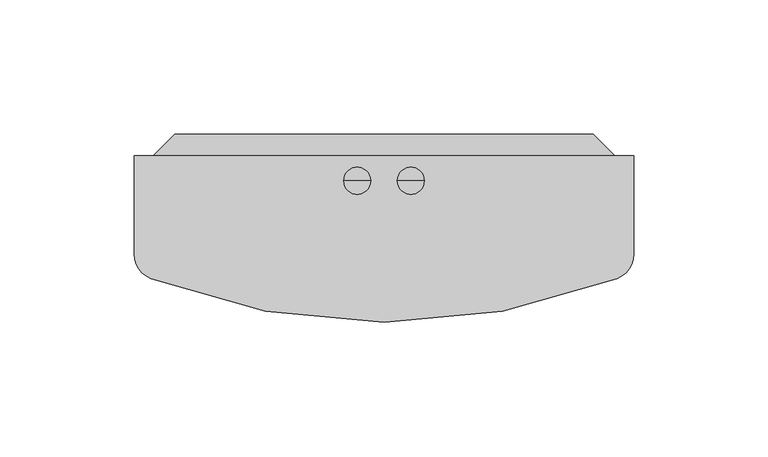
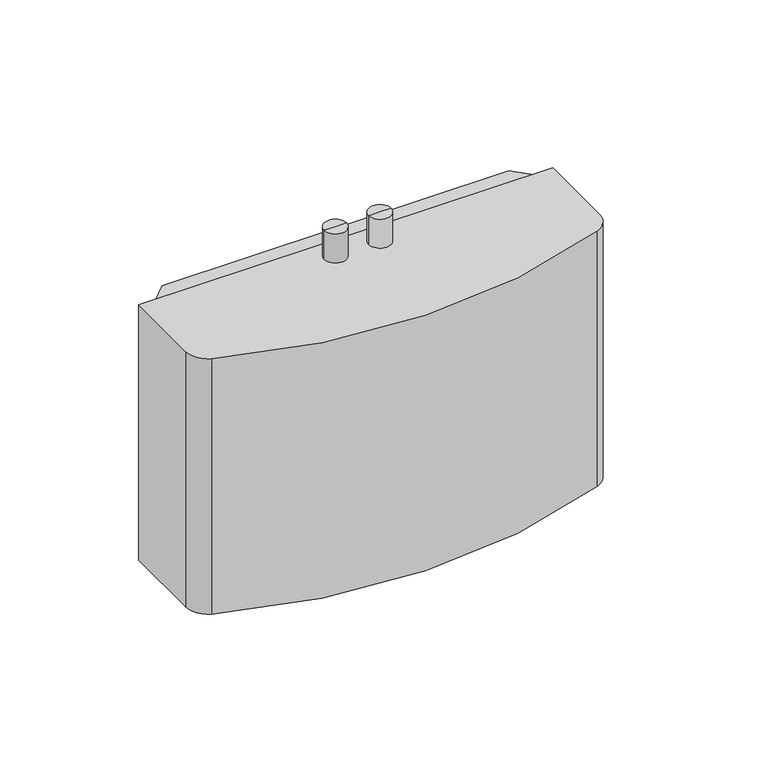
"""IFC4 building model written with IfcOpenShell, lengths in millimetres: flow terminal geometry, z_PlumFixt_Zenith_Booster : Booster."""

import ifcopenshell
import ifcopenshell.guid

model = None  # the IFC model being written
_history = None  # IfcOwnerHistory: only IFC2X3 demands one
_inside = {}  # id of a spatial element -> (the spatial element, [elements in it])
_under = {}  # id of a project, library or spatial element -> (it, [spatial elements below it])
_declared = {}  # id of a project -> (the project, [libraries it declares])
_typed = {}  # id of a type object -> (the type object, [elements of that type])
_made_of = {}  # id of a material, layer set ... -> (it, [elements and type objects made of it])


def new_model(schema):
    """Start an empty IFC model of exactly this schema.

    Asked for "IFC4X3", IfcOpenShell would pick the latest addendum, in which some entities
    have other attributes; the version numbers below select the first issue.
    IFC2X3 requires an IfcOwnerHistory on every rooted entity: one is made here for all.
    """
    global model, _history
    if schema == "IFC4X3":
        model = ifcopenshell.file(schema_version=(4, 3, 0, 0))
    else:
        model = ifcopenshell.file(schema=schema)
    _inside.clear()
    _under.clear()
    _declared.clear()
    _typed.clear()
    _made_of.clear()
    _history = None
    if model.schema == "IFC2X3":
        org = make("IfcOrganization", Name="unknown")
        user = make(
            "IfcPersonAndOrganization",
            ThePerson=make("IfcPerson", FamilyName="unknown"),
            TheOrganization=org,
        )
        app = make(
            "IfcApplication",
            ApplicationDeveloper=org,
            Version="unknown",
            ApplicationFullName="unknown",
            ApplicationIdentifier="unknown",
        )
        _history = make(
            "IfcOwnerHistory",
            OwningUser=user,
            OwningApplication=app,
            ChangeAction="ADDED",
            CreationDate=0,
        )
    return model


def make(cls, **values):
    """One entity of the class cls with the attributes given. An attribute that is None is left unset."""
    return model.create_entity(
        cls, **{name: value for name, value in values.items() if value is not None}
    )


def rooted(cls, **values):
    """An entity with a GlobalId (a new one), such as an element, a storey or a relation."""
    return make(cls, GlobalId=ifcopenshell.guid.new(), OwnerHistory=_history, **values)


def si_unit(unit_type, name, prefix=None):
    """IfcSIUnit, for example si_unit("LENGTHUNIT", "METRE", prefix="MILLI")."""
    return make("IfcSIUnit", UnitType=unit_type, Prefix=prefix, Name=name)


def assignment(units):
    """IfcUnitAssignment: the units of a project."""
    return None if units is None else make("IfcUnitAssignment", Units=units)


def point(xyz):
    """IfcCartesianPoint."""
    return None if xyz is None else make("IfcCartesianPoint", Coordinates=xyz)


def direction(xyz):
    """IfcDirection."""
    return None if xyz is None else make("IfcDirection", DirectionRatios=xyz)


def frame(location, z_axis=None, x_axis=None):
    """IfcAxis2Placement3D, a coordinate frame: its origin and axes. An axis left out is left unset."""
    return make(
        "IfcAxis2Placement3D",
        Location=point(location),
        Axis=direction(z_axis),
        RefDirection=direction(x_axis),
    )


def frame_2d(location, x_axis=None):
    """IfcAxis2Placement2D, a coordinate frame in the plane: its origin and x axis."""
    return make(
        "IfcAxis2Placement2D", Location=point(location), RefDirection=direction(x_axis)
    )


def origin():
    """The frame at (0, 0, 0) with its axes left unset."""
    return frame((0.0, 0.0, 0.0))


def origin_with_axes():
    """The frame at (0, 0, 0) with the z axis (0, 0, 1) and the x axis (1, 0, 0) written out."""
    return frame((0.0, 0.0, 0.0), z_axis=(0.0, 0.0, 1.0), x_axis=(1.0, 0.0, 0.0))


def place(relative_to, where):
    """IfcLocalPlacement: puts the frame where relative to a parent placement (None: the world)."""
    return make(
        "IfcLocalPlacement", PlacementRelTo=relative_to, RelativePlacement=where
    )


def context(
    kind, dimensions, precision=None, world=None, true_north=None, identifier=None
):
    """IfcGeometricRepresentationContext, for example the 3D "Model" context."""
    return make(
        "IfcGeometricRepresentationContext",
        ContextIdentifier=identifier,
        ContextType=kind,
        CoordinateSpaceDimension=dimensions,
        Precision=precision,
        WorldCoordinateSystem=world,
        TrueNorth=true_north,
    )


def project(units=None, contexts=None):
    """IfcProject with its units and contexts."""
    return rooted(
        "IfcProject",
        Name="project",
        RepresentationContexts=contexts,
        UnitsInContext=assignment(units),
    )


def spatial(cls, under=None, at=None, **own):
    """A site, building, storey or space (cls), placed at a placement, below another one or the project."""
    s = rooted(cls, ObjectPlacement=at, **own)
    if under is not None:
        _under.setdefault(under.id(), (under, []))[1].append(s)
    return s


def polyline(points):
    """IfcPolyline through the points."""
    return make("IfcPolyline", Points=[point(p) for p in points])


def circle_curve(where, radius):
    """IfcCircle in the frame where."""
    return make("IfcCircle", Position=where, Radius=radius)


def trimmed(basis, trim1, trim2, sense, master):
    """IfcTrimmedCurve: the piece of a basis curve between two trims."""
    return make(
        "IfcTrimmedCurve",
        BasisCurve=basis,
        Trim1=trim1,
        Trim2=trim2,
        SenseAgreement=sense,
        MasterRepresentation=master,
    )


def segment(curve, same_sense, transition):
    """IfcCompositeCurveSegment."""
    return make(
        "IfcCompositeCurveSegment",
        Transition=transition,
        SameSense=same_sense,
        ParentCurve=curve,
    )


def composite_curve(segments, self_intersect=None):
    """IfcCompositeCurve: segments joined end to end."""
    return make("IfcCompositeCurve", Segments=segments, SelfIntersect=self_intersect)


def outline(outer, holes=None, kind="AREA"):
    """IfcArbitraryClosedProfileDef: a profile drawn as a closed curve; with holes, ...WithVoids."""
    if holes is None:
        return make("IfcArbitraryClosedProfileDef", ProfileType=kind, OuterCurve=outer)
    return make(
        "IfcArbitraryProfileDefWithVoids",
        ProfileType=kind,
        OuterCurve=outer,
        InnerCurves=holes,
    )


def extrude(swept, where, along, depth):
    """IfcExtrudedAreaSolid: the profile swept, set in the frame where, extruded along a direction by depth."""
    return make(
        "IfcExtrudedAreaSolid",
        SweptArea=swept,
        Position=where,
        ExtrudedDirection=direction(along),
        Depth=depth,
    )


def shape(context_of_items, identifier, shape_type, items):
    """IfcShapeRepresentation: the items that make up one representation, for example the "Body"."""
    return make(
        "IfcShapeRepresentation",
        ContextOfItems=context_of_items,
        RepresentationIdentifier=identifier,
        RepresentationType=shape_type,
        Items=items,
    )


def source(mapping_origin, context_of_items, identifier, shape_type, items):
    """IfcRepresentationMap: a shape defined once, which mapped items show again and again."""
    return make(
        "IfcRepresentationMap",
        MappingOrigin=mapping_origin,
        MappedRepresentation=shape(context_of_items, identifier, shape_type, items),
    )


def transform(
    local_origin,
    x_axis=None,
    y_axis=None,
    z_axis=None,
    scale=None,
    scale2=None,
    scale3=None,
    uniform=True,
):
    """IfcCartesianTransformationOperator3D, or its non-uniform kind. x_axis, y_axis, z_axis: its Axis1, 2, 3."""
    if uniform:
        return make(
            "IfcCartesianTransformationOperator3D",
            Axis1=direction(x_axis),
            Axis2=direction(y_axis),
            LocalOrigin=point(local_origin),
            Scale=scale,
            Axis3=direction(z_axis),
        )
    return make(
        "IfcCartesianTransformationOperator3DnonUniform",
        Axis1=direction(x_axis),
        Axis2=direction(y_axis),
        LocalOrigin=point(local_origin),
        Scale=scale,
        Axis3=direction(z_axis),
        Scale2=scale2,
        Scale3=scale3,
    )


def mapped(mapping_source, mapping_target):
    """IfcMappedItem: shows the shape of a source again, moved by a transform."""
    return make(
        "IfcMappedItem", MappingSource=mapping_source, MappingTarget=mapping_target
    )


def made_of(thing, what):
    """Note that an element or type object is made of a material, layer set ...; save() writes the relation."""
    if what is not None:
        _made_of.setdefault(what.id(), (what, []))[1].append(thing)
    return thing


def element(
    cls,
    number,
    at=None,
    inside=None,
    cuts=None,
    type_object=None,
    material=None,
    context=None,
    identifier="Body",
    shape_type=None,
    held_by="IfcProductDefinitionShape",
    body=None,
    shapes=None,
    **own,
):
    """One element of the class cls, such as IfcWall. Its Tag is "e" and its number.

    at: its placement. inside: the storey or other place that contains it. cuts: it is an
    opening in that element (IfcRelVoidsElement). A single representation is given by context,
    identifier, shape_type and body (its items); several are given by shapes. held_by: the class
    of the entity that holds the representations. save() writes the other relations.
    """
    e = rooted(cls, Tag="e%d" % number, ObjectPlacement=at, **own)
    if body is not None:
        shapes = [shape(context, identifier, shape_type, body)]
    if shapes is not None:
        e.Representation = make(held_by, Representations=shapes)
    if inside is not None:
        _inside.setdefault(inside.id(), (inside, []))[1].append(e)
    if cuts is not None:
        rooted(
            "IfcRelVoidsElement", RelatingBuildingElement=cuts, RelatedOpeningElement=e
        )
    if type_object is not None:
        _typed.setdefault(type_object.id(), (type_object, []))[1].append(e)
    return made_of(e, material)


def aggregate(whole, parts):
    """IfcRelAggregates: a whole, such as a stair, and the parts it consists of."""
    return rooted("IfcRelAggregates", RelatingObject=whole, RelatedObjects=parts)


def save(model, path):
    """Write the relations noted so far, then the file.

    IfcRelAggregates (storeys below a building ...), IfcRelContainedInSpatialStructure (elements
    in a storey), IfcRelDefinesByType, IfcRelAssociatesMaterial and IfcRelDeclares: one each for
    every whole, place, type object, material and project.
    """
    for whole, parts in _under.values():
        aggregate(whole, parts)
    for where, things in _inside.values():
        rooted(
            "IfcRelContainedInSpatialStructure",
            RelatedElements=things,
            RelatingStructure=where,
        )
    for kind, things in _typed.values():
        rooted("IfcRelDefinesByType", RelatedObjects=things, RelatingType=kind)
    for what, things in _made_of.values():
        rooted("IfcRelAssociatesMaterial", RelatedObjects=things, RelatingMaterial=what)
    for by, libraries in _declared.values():
        rooted("IfcRelDeclares", RelatingContext=by, RelatedDefinitions=libraries)
    model.write(path)


def plane_surface(at):
    """IfcPlane: the flat surface through the origin of the frame at, square to its z axis."""
    return make("IfcPlane", Position=at)


def cylinder_surface(at, radius):
    """IfcCylindricalSurface: all points at the distance radius from the z axis of the frame at."""
    return make("IfcCylindricalSurface", Position=at, Radius=radius)


def advanced_brep(points, edges, surfaces, faces):
    """IfcAdvancedBrep: a solid bounded by faces that lie on surfaces and meet in shared edges.

    An edge is (start, end): straight between two places in points (the first is 0);
    or (start, end, curve); or (start, end, curve, False) where it runs against its curve.
    A face is (place in surfaces, loops), or (place, loops, False) where it looks against
    its surface's normal. A loop lists edges by number (the first is 1), with a minus sign
    where the edge is run from its end to its start. The first loop is the outer one.
    """
    corners = [point(p) for p in points]
    vertices = [make("IfcVertexPoint", VertexGeometry=c) for c in corners]
    made = []
    for start, end, *more in edges:
        made.append(
            make(
                "IfcEdgeCurve",
                EdgeStart=vertices[start],
                EdgeEnd=vertices[end],
                EdgeGeometry=more[0] if more else make("IfcPolyline", Points=[corners[start], corners[end]]),
                SameSense=more[1] if len(more) > 1 else True,
            )
        )
    hull = []
    for where, loops, *sense in faces:
        bounds = []
        for j, loop in enumerate(loops):
            ring = [make("IfcOrientedEdge", EdgeElement=made[abs(k) - 1], Orientation=k > 0) for k in loop]
            bounds.append(
                make(
                    "IfcFaceOuterBound" if j == 0 else "IfcFaceBound",
                    Bound=make("IfcEdgeLoop", EdgeList=ring),
                    Orientation=True,
                )
            )
        hull.append(make("IfcAdvancedFace", Bounds=bounds, FaceSurface=surfaces[where], SameSense=sense[0] if sense else True))
    return make("IfcAdvancedBrep", Outer=make("IfcClosedShell", CfsFaces=hull))


def flow_terminal_1fd3c137(model_context):
    return source(origin(), model_context, "Body", "SolidModel", [
        advanced_brep(
        [(-9.0, -69.311839, 135.0), (-14.0, -69.311839, 135.0), (-4.0, -69.311839, 135.0), (-4.0, -69.311839, 121.25), (-14.0, -69.311839, 121.25), (-9.0, -69.311839, 121.25)],
        [
            (0, 1),
            (1, 2, circle_curve(frame((-9.0, -69.311839, 135.0), z_axis=(0.0, 0.0, 1.0), x_axis=(-1.0, 0.0, 0.0)), 5.0)),
            (2, 0),
            (2, 1, circle_curve(frame((-9.0, -69.311839, 135.0), z_axis=(0.0, 0.0, 1.0), x_axis=(-1.0, 0.0, 0.0)), 5.0)),
            (3, 4, circle_curve(frame((-9.0, -69.311839, 121.25), z_axis=(0.0, 0.0, -1.0), x_axis=(-1.0, 0.0, 0.0)), 5.0)),
            (4, 5),
            (5, 3),
            (4, 3, circle_curve(frame((-9.0, -69.311839, 121.25), z_axis=(0.0, 0.0, -1.0), x_axis=(-1.0, 0.0, 0.0)), 5.0)),
            (1, 4),
            (3, 2),
        ],
        [
            plane_surface(frame((-9.0, -69.311839, 135.0), z_axis=(0.0, 0.0, 1.0), x_axis=(-1.0, 0.0, 0.0))),
            plane_surface(frame((-9.0, -69.311839, 121.25), z_axis=(0.0, 0.0, -1.0), x_axis=(-1.0, 0.0, 0.0))),
            cylinder_surface(frame((-9.0, -69.311839, 123.734876), z_axis=(0.0, 0.0, 1.0), x_axis=(-1.0, 0.0, 0.0)), 5.0),
        ],
        [
            (0, [[1, 2, 3]]),
            (0, [[-3, 4, -1]]),
            (1, [[5, 6, 7]]),
            (1, [[8, -7, -6]]),
            (2, [[-2, 9, -5, 10]]),
            (2, [[-4, -10, -8, -9]]),
        ],
    ),
        advanced_brep(
        [(6.0, -69.311839, 135.0), (16.0, -69.311839, 135.0), (11.0, -69.311839, 135.0), (11.0, -69.311839, 121.25), (16.0, -69.311839, 121.25), (6.0, -69.311839, 121.25)],
        [
            (0, 1, circle_curve(frame((11.0, -69.311839, 135.0), z_axis=(0.0, 0.0, 1.0), x_axis=(1.0, 0.0, 0.0)), 5.0)),
            (1, 2),
            (2, 0),
            (1, 0, circle_curve(frame((11.0, -69.311839, 135.0), z_axis=(0.0, 0.0, 1.0), x_axis=(1.0, 0.0, 0.0)), 5.0)),
            (3, 4),
            (4, 5, circle_curve(frame((11.0, -69.311839, 121.25), z_axis=(0.0, 0.0, -1.0), x_axis=(1.0, 0.0, 0.0)), 5.0)),
            (5, 3),
            (5, 4, circle_curve(frame((11.0, -69.311839, 121.25), z_axis=(0.0, 0.0, -1.0), x_axis=(1.0, 0.0, 0.0)), 5.0)),
            (4, 1),
            (0, 5),
        ],
        [
            plane_surface(frame((11.0, -69.311839, 135.0), z_axis=(0.0, 0.0, 1.0), x_axis=(1.0, 0.0, 0.0))),
            plane_surface(frame((11.0, -69.311839, 121.25), z_axis=(0.0, 0.0, -1.0), x_axis=(1.0, 0.0, 0.0))),
            cylinder_surface(frame((11.0, -69.311839, 123.734876), z_axis=(0.0, 0.0, -1.0), x_axis=(1.0, 0.0, 0.0)), 5.0),
        ],
        [
            (0, [[1, 2, 3]]),
            (0, [[4, -3, -2]]),
            (1, [[5, 6, 7]]),
            (1, [[-7, 8, -5]]),
            (2, [[-6, 9, -1, 10]]),
            (2, [[-8, -10, -4, -9]]),
        ],
    ),
        extrude(outline(polyline([(78.9446111, -52.0), (86.9446111, -60.0), (-84.9446111, -60.0), (-76.9446111, -52.0), (78.9446111, -52.0)])), frame((0.0, 0.0, 1.0), z_axis=(0.0, 0.0, 1.0), x_axis=(1.0, 0.0, 0.0)), (0.0, 0.0, 1.0), 119.25),
        extrude(outline(composite_curve([segment(polyline([(-92.0, -60.0), (94.0, -60.0), (94.0, -96.4980615)]), True, "CONTINUOUS"), segment(trimmed(circle_curve(frame_2d((84.0, -96.4980615)), 10.0), [point((94.0, -96.4980615))], [point((87.6094962, -105.8239146))], False, "CARTESIAN"), True, "CONTINUOUS"), segment(trimmed(circle_curve(frame_2d((1.0, 117.9489865)), 239.9489865), [point((87.6094962, -105.8239146))], [point((-85.6094962, -105.8239146))], False, "CARTESIAN"), True, "CONTINUOUS"), segment(trimmed(circle_curve(frame_2d((-82.0, -96.4980615)), 10.0), [point((-85.6094962, -105.8239146))], [point((-92.0, -96.4980615))], False, "CARTESIAN"), True, "CONTINUOUS"), segment(polyline([(-92.0, -96.4980615), (-92.0, -60.0)]), True, "CONTINUOUS")], self_intersect=False)), origin_with_axes(), (0.0, 0.0, 1.0), 121.25),
    ])


if __name__ == "__main__":
    model = new_model("IFC4")
    model_context = context("Model", 3, world=origin())
    ifc_project = project(units=[si_unit("LENGTHUNIT", "METRE", prefix="MILLI")], contexts=[model_context])
    site = spatial("IfcSite", under=ifc_project)
    building = spatial("IfcBuilding", under=site)
    placement = place(None, origin())
    flow_terminal_shape = flow_terminal_1fd3c137(model_context)
    element("IfcFlowTerminal", 1, ObjectType="z_PlumFixt_Zenith_Booster : Booster", at=placement, inside=building, context=model_context, shape_type="MappedRepresentation", body=[
        mapped(flow_terminal_shape, transform((0.0, 0.0, 0.0), x_axis=(1.0, 0.0, 0.0), y_axis=(0.0, 1.0, 0.0), z_axis=(0.0, 0.0, 1.0))),
    ])
    save(model, "model.ifc")
